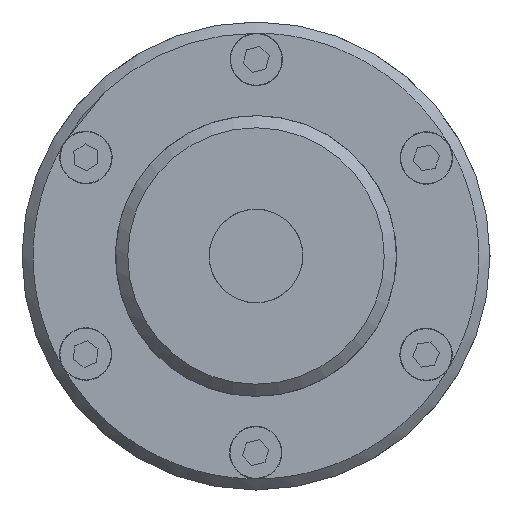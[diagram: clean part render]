
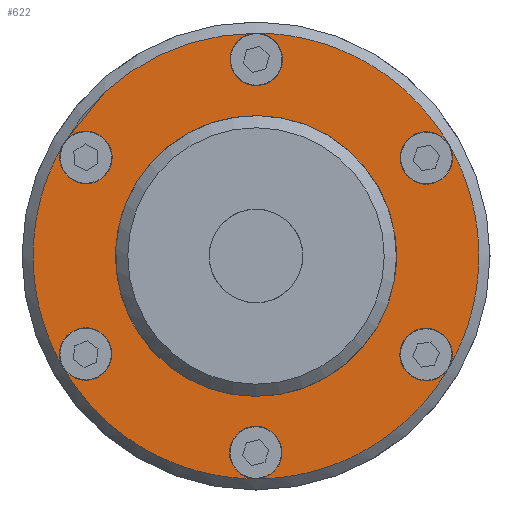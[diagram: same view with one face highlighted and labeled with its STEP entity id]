
A CAD part, left-side view. The second image highlights one B-rep face of the part: STEP entity #622.
In plain terms, the highlighted planar face has unit normal (-1, 0, 0).
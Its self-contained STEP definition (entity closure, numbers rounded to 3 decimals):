
#622 = ADVANCED_FACE( '', ( #1100, #1101 ), #1102, .F. );
#1100 = FACE_OUTER_BOUND( '', #1752, .T. );
#1101 = FACE_BOUND( '', #1753, .T. );
#1102 = PLANE( '', #1754 );
#1752 = EDGE_LOOP( '', ( #2804, #2805, #2806, #2807, #2808, #2809, #2810, #2811, #2812, #2813, #2814, #2815 ) );
#1753 = EDGE_LOOP( '', ( #2816, #2817, #2818, #2819, #2820, #2821, #2822, #2823 ) );
#1754 = AXIS2_PLACEMENT_3D( '', #2824, #2825, #2826 );
#2804 = ORIENTED_EDGE( '', *, *, #4043, .T. );
#2805 = ORIENTED_EDGE( '', *, *, #4044, .T. );
#2806 = ORIENTED_EDGE( '', *, *, #4045, .T. );
#2807 = ORIENTED_EDGE( '', *, *, #4046, .T. );
#2808 = ORIENTED_EDGE( '', *, *, #4047, .T. );
#2809 = ORIENTED_EDGE( '', *, *, #4048, .T. );
#2810 = ORIENTED_EDGE( '', *, *, #4049, .T. );
#2811 = ORIENTED_EDGE( '', *, *, #4050, .T. );
#2812 = ORIENTED_EDGE( '', *, *, #4051, .T. );
#2813 = ORIENTED_EDGE( '', *, *, #4052, .T. );
#2814 = ORIENTED_EDGE( '', *, *, #4053, .T. );
#2815 = ORIENTED_EDGE( '', *, *, #4000, .T. );
#2816 = ORIENTED_EDGE( '', *, *, #4010, .F. );
#2817 = ORIENTED_EDGE( '', *, *, #4007, .F. );
#2818 = ORIENTED_EDGE( '', *, *, #4036, .F. );
#2819 = ORIENTED_EDGE( '', *, *, #4042, .F. );
#2820 = ORIENTED_EDGE( '', *, *, #4041, .F. );
#2821 = ORIENTED_EDGE( '', *, *, #4039, .F. );
#2822 = ORIENTED_EDGE( '', *, *, #4033, .F. );
#2823 = ORIENTED_EDGE( '', *, *, #4054, .F. );
#2824 = CARTESIAN_POINT( '', ( -10., 25., 0. ) );
#2825 = DIRECTION( '', ( 1., 0., 0. ) );
#2826 = DIRECTION( '', ( 0., 1., 0. ) );
#4000 = EDGE_CURVE( '', #4619, #4619, #4620, .T. );
#4007 = EDGE_CURVE( '', #4632, #4627, #4634, .T. );
#4010 = EDGE_CURVE( '', #4627, #4636, #4639, .F. );
#4033 = EDGE_CURVE( '', #4674, #4676, #4677, .F. );
#4036 = EDGE_CURVE( '', #4679, #4632, #4681, .F. );
#4039 = EDGE_CURVE( '', #4676, #4684, #4686, .T. );
#4041 = EDGE_CURVE( '', #4684, #4687, #4689, .F. );
#4042 = EDGE_CURVE( '', #4687, #4679, #4690, .T. );
#4043 = EDGE_CURVE( '', #4619, #4691, #4692, .F. );
#4044 = EDGE_CURVE( '', #4691, #4691, #4693, .T. );
#4045 = EDGE_CURVE( '', #4691, #4694, #4695, .F. );
#4046 = EDGE_CURVE( '', #4694, #4694, #4696, .T. );
#4047 = EDGE_CURVE( '', #4694, #4697, #4698, .F. );
#4048 = EDGE_CURVE( '', #4697, #4697, #4699, .T. );
#4049 = EDGE_CURVE( '', #4697, #4700, #4701, .F. );
#4050 = EDGE_CURVE( '', #4700, #4700, #4702, .T. );
#4051 = EDGE_CURVE( '', #4700, #4703, #4704, .F. );
#4052 = EDGE_CURVE( '', #4703, #4703, #4705, .T. );
#4053 = EDGE_CURVE( '', #4703, #4619, #4706, .F. );
#4054 = EDGE_CURVE( '', #4636, #4674, #4707, .T. );
#4619 = VERTEX_POINT( '', #5631 );
#4620 = CIRCLE( '', #5632, 2.8 );
#4627 = VERTEX_POINT( '', #5639 );
#4632 = VERTEX_POINT( '', #5645 );
#4634 = CIRCLE( '', #5648, 16.5 );
#4636 = VERTEX_POINT( '', #5650 );
#4639 = CIRCLE( '', #5654, 15. );
#4674 = VERTEX_POINT( '', #5713 );
#4676 = VERTEX_POINT( '', #5716 );
#4677 = CIRCLE( '', #5717, 7. );
#4679 = VERTEX_POINT( '', #5720 );
#4681 = CIRCLE( '', #5723, 7. );
#4684 = VERTEX_POINT( '', #5726 );
#4686 = CIRCLE( '', #5729, 16.5 );
#4687 = VERTEX_POINT( '', #5730 );
#4689 = CIRCLE( '', #5733, 15. );
#4690 = CIRCLE( '', #5734, 16.5 );
#4691 = VERTEX_POINT( '', #5735 );
#4692 = CIRCLE( '', #5736, 23.8 );
#4693 = CIRCLE( '', #5737, 2.8 );
#4694 = VERTEX_POINT( '', #5738 );
#4695 = CIRCLE( '', #5739, 23.8 );
#4696 = CIRCLE( '', #5740, 2.8 );
#4697 = VERTEX_POINT( '', #5741 );
#4698 = CIRCLE( '', #5742, 23.8 );
#4699 = CIRCLE( '', #5743, 2.8 );
#4700 = VERTEX_POINT( '', #5744 );
#4701 = CIRCLE( '', #5745, 23.8 );
#4702 = CIRCLE( '', #5746, 2.8 );
#4703 = VERTEX_POINT( '', #5747 );
#4704 = CIRCLE( '', #5748, 23.8 );
#4705 = CIRCLE( '', #5749, 2.8 );
#4706 = CIRCLE( '', #5750, 23.8 );
#4707 = CIRCLE( '', #5751, 16.5 );
#5631 = CARTESIAN_POINT( '', ( -10., 0., 23.8 ) );
#5632 = AXIS2_PLACEMENT_3D( '', #7106, #7107, #7108 );
#5639 = CARTESIAN_POINT( '', ( -10., 6.818, -13.361 ) );
#5645 = CARTESIAN_POINT( '', ( -10., 1.485, -6.841 ) );
#5648 = AXIS2_PLACEMENT_3D( '', #7123, #7124, #7125 );
#5650 = CARTESIAN_POINT( '', ( -10., -6.818, -13.361 ) );
#5654 = AXIS2_PLACEMENT_3D( '', #7130, #7131, #7132 );
#5713 = CARTESIAN_POINT( '', ( -10., -1.485, -6.841 ) );
#5716 = CARTESIAN_POINT( '', ( -10., -1.485, 6.841 ) );
#5717 = AXIS2_PLACEMENT_3D( '', #7173, #7174, #7175 );
#5720 = CARTESIAN_POINT( '', ( -10., 1.485, 6.841 ) );
#5723 = AXIS2_PLACEMENT_3D( '', #7178, #7179, #7180 );
#5726 = CARTESIAN_POINT( '', ( -10., -6.818, 13.361 ) );
#5729 = AXIS2_PLACEMENT_3D( '', #7185, #7186, #7187 );
#5730 = CARTESIAN_POINT( '', ( -10., 6.818, 13.361 ) );
#5733 = AXIS2_PLACEMENT_3D( '', #7189, #7190, #7191 );
#5734 = AXIS2_PLACEMENT_3D( '', #7192, #7193, #7194 );
#5735 = CARTESIAN_POINT( '', ( -10., 20.611, 11.9 ) );
#5736 = AXIS2_PLACEMENT_3D( '', #7195, #7196, #7197 );
#5737 = AXIS2_PLACEMENT_3D( '', #7198, #7199, #7200 );
#5738 = CARTESIAN_POINT( '', ( -10., 20.611, -11.9 ) );
#5739 = AXIS2_PLACEMENT_3D( '', #7201, #7202, #7203 );
#5740 = AXIS2_PLACEMENT_3D( '', #7204, #7205, #7206 );
#5741 = CARTESIAN_POINT( '', ( -10., 0., -23.8 ) );
#5742 = AXIS2_PLACEMENT_3D( '', #7207, #7208, #7209 );
#5743 = AXIS2_PLACEMENT_3D( '', #7210, #7211, #7212 );
#5744 = CARTESIAN_POINT( '', ( -10., -20.611, -11.9 ) );
#5745 = AXIS2_PLACEMENT_3D( '', #7213, #7214, #7215 );
#5746 = AXIS2_PLACEMENT_3D( '', #7216, #7217, #7218 );
#5747 = CARTESIAN_POINT( '', ( -10., -20.611, 11.9 ) );
#5748 = AXIS2_PLACEMENT_3D( '', #7219, #7220, #7221 );
#5749 = AXIS2_PLACEMENT_3D( '', #7222, #7223, #7224 );
#5750 = AXIS2_PLACEMENT_3D( '', #7225, #7226, #7227 );
#5751 = AXIS2_PLACEMENT_3D( '', #7228, #7229, #7230 );
#7106 = CARTESIAN_POINT( '', ( -10., 0., 21. ) );
#7107 = DIRECTION( '', ( 1., 0., 0. ) );
#7108 = DIRECTION( '', ( 0., 0., -1. ) );
#7123 = CARTESIAN_POINT( '', ( -10., 16.5, 0. ) );
#7124 = DIRECTION( '', ( 1., 0., 0. ) );
#7125 = DIRECTION( '', ( 0., 0., -1. ) );
#7130 = CARTESIAN_POINT( '', ( -10., 0., 0. ) );
#7131 = DIRECTION( '', ( 1., 0., 0. ) );
#7132 = DIRECTION( '', ( 0., 0., -1. ) );
#7173 = CARTESIAN_POINT( '', ( -10., 0., 0. ) );
#7174 = DIRECTION( '', ( 1., 0., 0. ) );
#7175 = DIRECTION( '', ( 0., 0., -1. ) );
#7178 = CARTESIAN_POINT( '', ( -10., 0., 0. ) );
#7179 = DIRECTION( '', ( 1., 0., 0. ) );
#7180 = DIRECTION( '', ( 0., 0., -1. ) );
#7185 = CARTESIAN_POINT( '', ( -10., -16.5, 0. ) );
#7186 = DIRECTION( '', ( 1., 0., 0. ) );
#7187 = DIRECTION( '', ( 0., 0., -1. ) );
#7189 = CARTESIAN_POINT( '', ( -10., 0., 0. ) );
#7190 = DIRECTION( '', ( 1., 0., 0. ) );
#7191 = DIRECTION( '', ( 0., 0., -1. ) );
#7192 = CARTESIAN_POINT( '', ( -10., 16.5, 0. ) );
#7193 = DIRECTION( '', ( 1., 0., 0. ) );
#7194 = DIRECTION( '', ( 0., 0., -1. ) );
#7195 = CARTESIAN_POINT( '', ( -10., 0., 0. ) );
#7196 = DIRECTION( '', ( 1., 0., 0. ) );
#7197 = DIRECTION( '', ( 0., 0., -1. ) );
#7198 = CARTESIAN_POINT( '', ( -10., 18.187, 10.5 ) );
#7199 = DIRECTION( '', ( 1., 0., 0. ) );
#7200 = DIRECTION( '', ( 0., 0., -1. ) );
#7201 = CARTESIAN_POINT( '', ( -10., 0., 0. ) );
#7202 = DIRECTION( '', ( 1., 0., 0. ) );
#7203 = DIRECTION( '', ( 0., 0., -1. ) );
#7204 = CARTESIAN_POINT( '', ( -10., 18.187, -10.5 ) );
#7205 = DIRECTION( '', ( 1., 0., 0. ) );
#7206 = DIRECTION( '', ( 0., 0., -1. ) );
#7207 = CARTESIAN_POINT( '', ( -10., 0., 0. ) );
#7208 = DIRECTION( '', ( 1., 0., 0. ) );
#7209 = DIRECTION( '', ( 0., 0., -1. ) );
#7210 = CARTESIAN_POINT( '', ( -10., 0., -21. ) );
#7211 = DIRECTION( '', ( 1., 0., 0. ) );
#7212 = DIRECTION( '', ( 0., 0., -1. ) );
#7213 = CARTESIAN_POINT( '', ( -10., 0., 0. ) );
#7214 = DIRECTION( '', ( 1., 0., 0. ) );
#7215 = DIRECTION( '', ( 0., 0., -1. ) );
#7216 = CARTESIAN_POINT( '', ( -10., -18.187, -10.5 ) );
#7217 = DIRECTION( '', ( 1., 0., 0. ) );
#7218 = DIRECTION( '', ( 0., 0., -1. ) );
#7219 = CARTESIAN_POINT( '', ( -10., 0., 0. ) );
#7220 = DIRECTION( '', ( 1., 0., 0. ) );
#7221 = DIRECTION( '', ( 0., 0., -1. ) );
#7222 = CARTESIAN_POINT( '', ( -10., -18.187, 10.5 ) );
#7223 = DIRECTION( '', ( 1., 0., 0. ) );
#7224 = DIRECTION( '', ( 0., 0., -1. ) );
#7225 = CARTESIAN_POINT( '', ( -10., 0., 0. ) );
#7226 = DIRECTION( '', ( 1., 0., 0. ) );
#7227 = DIRECTION( '', ( 0., 0., -1. ) );
#7228 = CARTESIAN_POINT( '', ( -10., -16.5, 0. ) );
#7229 = DIRECTION( '', ( 1., 0., 0. ) );
#7230 = DIRECTION( '', ( 0., 0., -1. ) );
